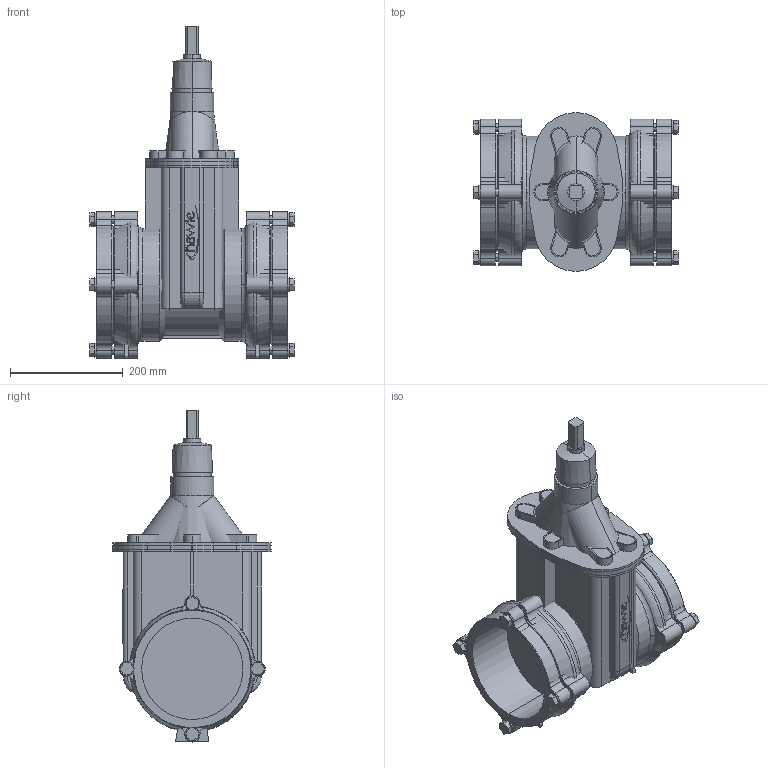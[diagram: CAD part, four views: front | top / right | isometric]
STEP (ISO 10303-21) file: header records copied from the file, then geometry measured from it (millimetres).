
FILE_DESCRIPTION(('STEP AP214'),'1');
FILE_NAME('S:/EK/USER/CAT6/3DHomepage/4040E2/4040E2-PN16-DN150-180.STP','2012-04-24T11:18:56',(' '),(' '),'Spatial InterOp 3D',' ',' ');
FILE_SCHEMA(('automotive_design'));
Length unit declared in the file: millimetre
Products named in the file (93): 3D-Objekt
Bounding box: 362.6 x 281.29 x 590 mm (x, y, z)
Volume: 15431124 mm3; surface area: 1409320.4 mm2
Topology: 93 solids, 93 shells, 753 faces, 1681 edges, 1118 vertices
Faces by surface type: plane 422, cylinder 285, torus 28, cone 14, bspline 4
Entity records: 29326 total; most frequent: DIRECTION 4047, CARTESIAN_POINT 3713, ORIENTED_EDGE 3362, EDGE_CURVE 1681, AXIS2_PLACEMENT_3D 1524, VERTEX_POINT 1118, LINE 999, VECTOR 999
